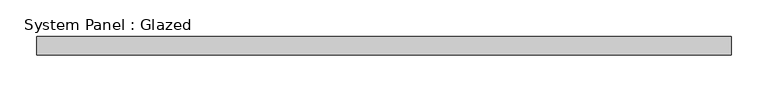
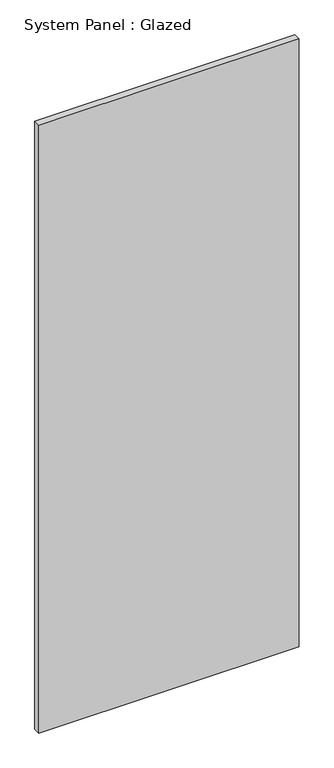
"""IFC4 building model written with IfcOpenShell, lengths in millimetres: plate geometry, System Panel : Glazed."""

from ifc_helpers import new_model, si_unit, origin, origin_with_axes, place, context, project, spatial, polyline, outline, extrude, source, transform, mapped, element, save


def system_panel_glazed_672343e4(model_context):
    return source(origin(), model_context, "Body", "SweptSolid", [
        extrude(outline(polyline([(470.8333334, 24.5), (-470.8333334, 24.5), (-470.8333334, 49.5), (470.8333334, 49.5), (470.8333334, 24.5)])), origin_with_axes(), (0.0, 0.0, 1.0), 2325.0),
    ])


if __name__ == "__main__":
    model = new_model("IFC4")
    model_context = context("Model", 3, world=origin())
    ifc_project = project(units=[si_unit("LENGTHUNIT", "METRE", prefix="MILLI")], contexts=[model_context])
    site = spatial("IfcSite", under=ifc_project)
    building = spatial("IfcBuilding", under=site)
    placement = place(None, origin())
    system_panel_glazed_shape = system_panel_glazed_672343e4(model_context)
    element("IfcPlate", 1, ObjectType="System Panel : Glazed", at=placement, inside=building, context=model_context, shape_type="MappedRepresentation", body=[
        mapped(system_panel_glazed_shape, transform((0.0, 0.0, 0.0), x_axis=(1.0, 0.0, 0.0), y_axis=(0.0, 1.0, 0.0), z_axis=(0.0, 0.0, 1.0))),
    ])
    save(model, "model.ifc")
